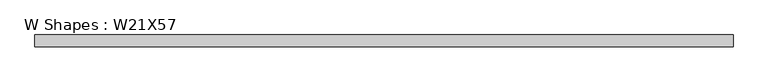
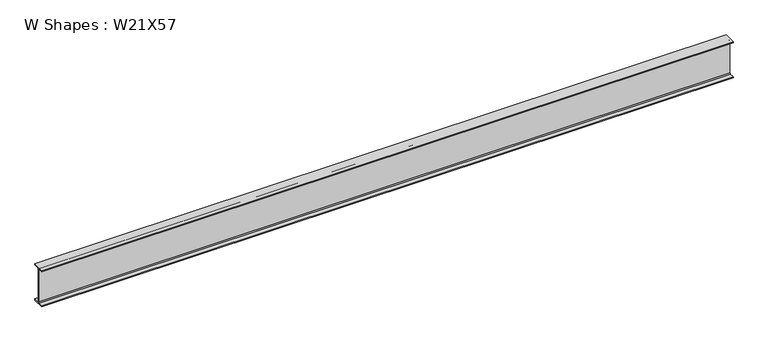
"""IFC4 building model written with IfcOpenShell, lengths in millimetres: beam geometry, W Shapes : W21X57."""

from ifc_helpers import new_model, si_unit, point, frame, frame_2d, origin, place, context, project, spatial, polyline, circle_curve, trimmed, segment, composite_curve, outline, extrude, source, transform, mapped, element, save


def w_shapes_w21x57_7ce624f6(model_context):
    return source(origin(), model_context, "Body", "SweptSolid", [
        extrude(outline(composite_curve([segment(polyline([(83.312, -251.46), (83.312, -267.97), (-83.312, -267.97), (-83.312, -251.46), (-17.8435, -251.46)]), True, "CONTINUOUS"), segment(trimmed(circle_curve(frame_2d((-17.8435, -238.76)), 12.7), [point((-17.8435, -251.46))], [point((-5.1435, -238.76))], True, "CARTESIAN"), True, "CONTINUOUS"), segment(polyline([(-5.1435, -238.76), (-5.1435, 238.76)]), True, "CONTINUOUS"), segment(trimmed(circle_curve(frame_2d((-17.8435, 238.76)), 12.7), [point((-5.1435, 238.76))], [point((-17.8435, 251.46))], True, "CARTESIAN"), True, "CONTINUOUS"), segment(polyline([(-17.8435, 251.46), (-83.312, 251.46), (-83.312, 267.97), (83.312, 267.97), (83.312, 251.46), (17.8435, 251.46)]), True, "CONTINUOUS"), segment(trimmed(circle_curve(frame_2d((17.8435, 238.76)), 12.7), [point((17.8435, 251.46))], [point((5.1435, 238.76))], True, "CARTESIAN"), True, "CONTINUOUS"), segment(polyline([(5.1435, 238.76), (5.1435, -238.76)]), True, "CONTINUOUS"), segment(trimmed(circle_curve(frame_2d((17.8435, -238.76)), 12.7), [point((5.1435, -238.76))], [point((17.8435, -251.46))], True, "CARTESIAN"), True, "CONTINUOUS"), segment(polyline([(17.8435, -251.46), (83.312, -251.46)]), True, "CONTINUOUS")], self_intersect=False)), frame((-4782.55, 0.0, 0.0), z_axis=(1.0, 0.0, 0.0), x_axis=(0.0, 1.0, 0.0)), (0.0, 0.0, 1.0), 9690.1),
    ])


if __name__ == "__main__":
    model = new_model("IFC4")
    model_context = context("Model", 3, world=origin())
    ifc_project = project(units=[si_unit("LENGTHUNIT", "METRE", prefix="MILLI")], contexts=[model_context])
    site = spatial("IfcSite", under=ifc_project)
    building = spatial("IfcBuilding", under=site)
    placement = place(None, origin())
    w_shapes_w21x57_shape = w_shapes_w21x57_7ce624f6(model_context)
    element("IfcBeam", 1, ObjectType="W Shapes : W21X57", at=placement, inside=building, context=model_context, shape_type="MappedRepresentation", body=[
        mapped(w_shapes_w21x57_shape, transform((0.0, 0.0, 0.0), x_axis=(1.0, 0.0, 0.0), y_axis=(0.0, 1.0, 0.0), z_axis=(0.0, 0.0, 1.0))),
    ])
    save(model, "model.ifc")
